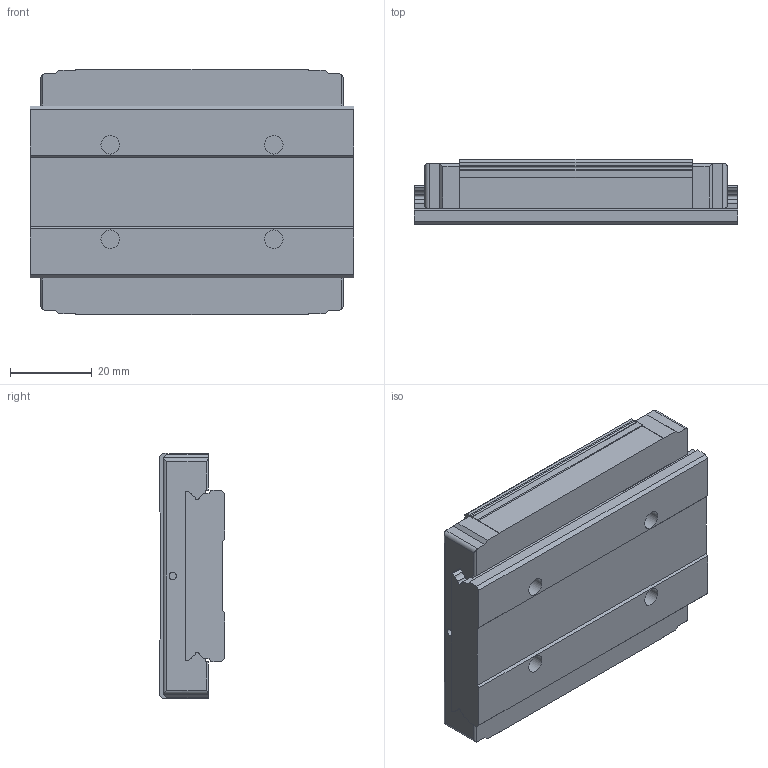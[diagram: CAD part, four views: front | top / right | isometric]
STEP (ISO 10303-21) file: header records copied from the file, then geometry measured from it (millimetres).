
FILE_DESCRIPTION( ( 'STEP AP214' ), '1' );
FILE_NAME( 'G:/品牌/AZI工艺/滑块/GGC/GGC15AKL.stp', '2024-01-19T03:42:33', ( 'License CC BY-ND 4.0' ), ( 'CADENAS' ), ' ', 'PARTsolutions', ' ' );
FILE_SCHEMA( ( 'AUTOMOTIVE_DESIGN { 1 0 10303 214 1 1 1 1 }' ) );
Length unit declared in the file: millimetre
Products named in the file (3): ZLCEW16-79-(39.5-0-0); _ZTCEW16-79; _ZZLCEW16
Assembly tree (2 placements, depth 2):
  ZLCEW16-79-(39.5-0-0)
    _ZTCEW16-79
    _ZZLCEW16
Bounding box: 79 x 16 x 60 mm (x, y, z)
Volume: 63032.8 mm3; surface area: 22509.3 mm2
Topology: 2 solids, 2 shells, 122 faces, 328 edges, 216 vertices
Faces by surface type: plane 71, cylinder 43, cone 8
Full cylindrical faces by diameter (mm): 1.8 x2, 3.242 x4, 4.5 x4, 8 x4
Entity records: 4782 total; most frequent: CARTESIAN_POINT 715, DIRECTION 626, ORIENTED_EDGE 604, EDGE_CURVE 302, VERTEX_POINT 216, LINE 212, VECTOR 212, AXIS2_PLACEMENT_3D 207
